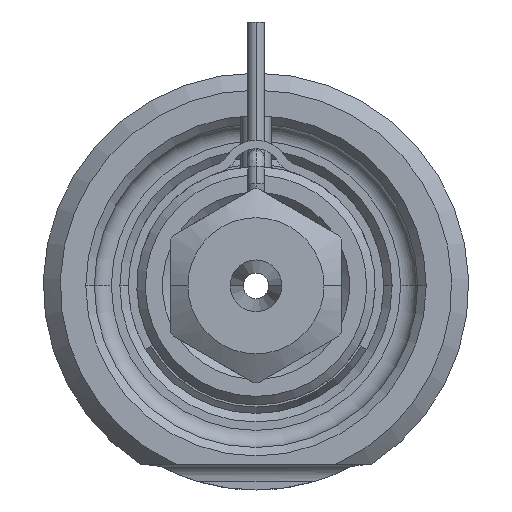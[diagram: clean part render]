
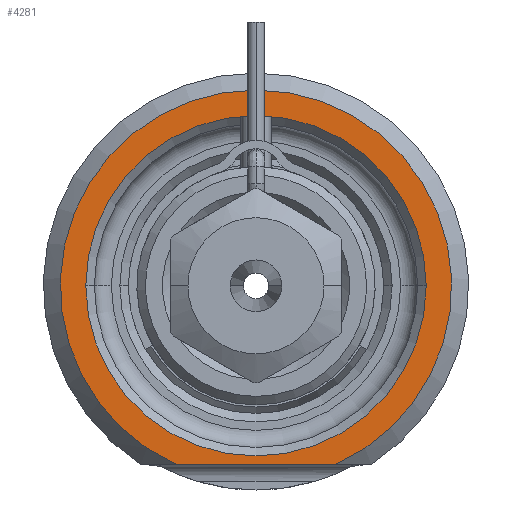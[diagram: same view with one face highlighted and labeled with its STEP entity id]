
A CAD part, front view. The second image highlights one B-rep face of the part: STEP entity #4281.
In plain terms, the highlighted planar face has unit normal (0, -1, 0).
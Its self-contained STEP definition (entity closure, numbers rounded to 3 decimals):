
#1386=CARTESIAN_POINT('',(0.,0.,0.));
#1387=DIRECTION('',(0.,-1.,0.));
#1388=DIRECTION('',(0.408,0.,-0.913));
#1389=AXIS2_PLACEMENT_3D('',#1386,#1387,#1388);
#1410=DIRECTION('',(1.,0.,0.));
#1411=VECTOR('',#1410,9.381);
#1412=CARTESIAN_POINT('',(-4.69,0.,-10.5));
#1413=LINE('',#1412,#1411);
#1414=CARTESIAN_POINT('',(0.,0.,0.));
#1415=DIRECTION('',(0.,1.,0.));
#1416=DIRECTION('',(-1.,0.,0.));
#1417=AXIS2_PLACEMENT_3D('',#1414,#1415,#1416);
#1419=CARTESIAN_POINT('',(0.,0.,0.));
#1420=DIRECTION('',(0.,1.,0.));
#1421=DIRECTION('',(1.,0.,0.));
#1422=AXIS2_PLACEMENT_3D('',#1419,#1420,#1421);
#2368=CARTESIAN_POINT('',(-10.,0.,0.));
#2369=CARTESIAN_POINT('',(10.,0.,0.));
#2370=VERTEX_POINT('',#2368);
#2371=VERTEX_POINT('',#2369);
#2412=CARTESIAN_POINT('',(-4.69,0.,-10.5));
#2413=CARTESIAN_POINT('',(4.69,0.,-10.5));
#2414=VERTEX_POINT('',#2412);
#2415=VERTEX_POINT('',#2413);
#4266=CARTESIAN_POINT('',(0.,0.,0.));
#4267=DIRECTION('',(0.,-1.,0.));
#4268=DIRECTION('',(1.,0.,0.));
#4269=AXIS2_PLACEMENT_3D('',#4266,#4267,#4268);
#4270=PLANE('',#4269);
#4271=ORIENTED_EDGE('',*,*,#4201,.F.);
#4272=ORIENTED_EDGE('',*,*,#4258,.F.);
#4273=EDGE_LOOP('',(#4271,#4272));
#4274=FACE_OUTER_BOUND('',#4273,.F.);
#4276=ORIENTED_EDGE('',*,*,#4275,.F.);
#4278=ORIENTED_EDGE('',*,*,#4277,.F.);
#4279=EDGE_LOOP('',(#4276,#4278));
#4280=FACE_BOUND('',#4279,.F.);
#4281=ADVANCED_FACE('',(#4274,#4280),#4270,.T.);
#1390=CIRCLE('',#1389,11.5);
#1418=CIRCLE('',#1417,10.);
#1423=CIRCLE('',#1422,10.);
#4201=EDGE_CURVE('',#2414,#2415,#1413,.T.);
#4258=EDGE_CURVE('',#2415,#2414,#1390,.T.);
#4275=EDGE_CURVE('',#2370,#2371,#1418,.T.);
#4277=EDGE_CURVE('',#2371,#2370,#1423,.T.);
